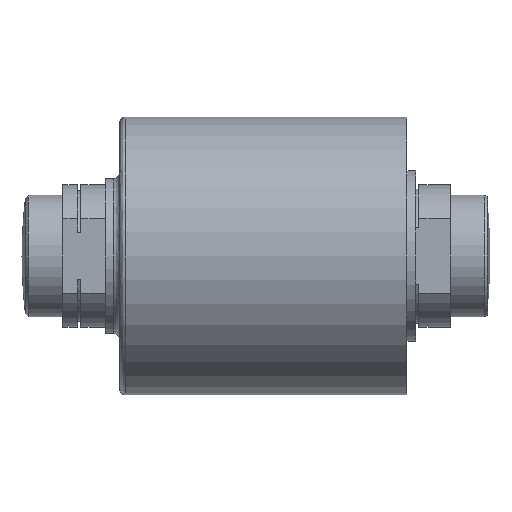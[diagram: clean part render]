
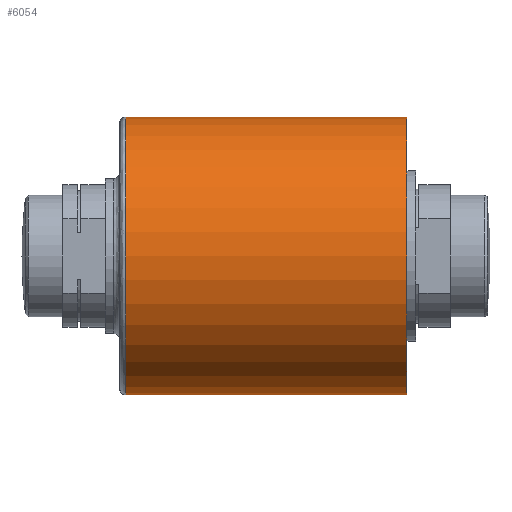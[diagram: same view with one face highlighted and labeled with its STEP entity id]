
A CAD part, left-side view. The second image highlights one B-rep face of the part: STEP entity #6054.
In plain terms, the highlighted cylindrical face has radius 44.45 mm (diameter 88.9 mm), a partial arc.
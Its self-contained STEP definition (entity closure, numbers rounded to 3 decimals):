
#178 = CYLINDRICAL_SURFACE ( 'NONE', #1650, 44.45 ) ;
#239 = CARTESIAN_POINT ( 'NONE',  ( 0., 0., 44.45 ) ) ;
#746 = VECTOR ( 'NONE', #4352, 1000. ) ;
#875 = CARTESIAN_POINT ( 'NONE',  ( 0., 116.812, -44.45 ) ) ;
#907 = EDGE_CURVE ( 'NONE', #5188, #5935, #5071, .T. ) ;
#934 = CARTESIAN_POINT ( 'NONE',  ( 0., 26.82, 44.45 ) ) ;
#1078 = AXIS2_PLACEMENT_3D ( 'NONE', #6734, #1265, #3538 ) ;
#1216 = VERTEX_POINT ( 'NONE', #2784 ) ;
#1265 = DIRECTION ( 'NONE',  ( 0., 1., 0. ) ) ;
#1650 = AXIS2_PLACEMENT_3D ( 'NONE', #6645, #3908, #6077 ) ;
#1744 = FACE_OUTER_BOUND ( 'NONE', #5509, .T. ) ;
#2135 = VECTOR ( 'NONE', #4502, 1000. ) ;
#2183 = LINE ( 'NONE', #3832, #746 ) ;
#2281 = VERTEX_POINT ( 'NONE', #875 ) ;
#2550 = EDGE_CURVE ( 'NONE', #5188, #2281, #3199, .T. ) ;
#2784 = CARTESIAN_POINT ( 'NONE',  ( 0., 26.82, -44.45 ) ) ;
#2843 = AXIS2_PLACEMENT_3D ( 'NONE', #6523, #6491, #4849 ) ;
#3199 = CIRCLE ( 'NONE', #2843, 44.45 ) ;
#3502 = ORIENTED_EDGE ( 'NONE', *, *, #2550, .T. ) ;
#3538 = DIRECTION ( 'NONE',  ( 0., 0., -1. ) ) ;
#3652 = ORIENTED_EDGE ( 'NONE', *, *, #5072, .T. ) ;
#3832 = CARTESIAN_POINT ( 'NONE',  ( 0., 0., -44.45 ) ) ;
#3908 = DIRECTION ( 'NONE',  ( 0., -1., 0. ) ) ;
#4335 = ORIENTED_EDGE ( 'NONE', *, *, #907, .F. ) ;
#4352 = DIRECTION ( 'NONE',  ( 0., -1., 0. ) ) ;
#4502 = DIRECTION ( 'NONE',  ( 0., -1., 0. ) ) ;
#4849 = DIRECTION ( 'NONE',  ( 0., 0., -1. ) ) ;
#5071 = LINE ( 'NONE', #239, #2135 ) ;
#5072 = EDGE_CURVE ( 'NONE', #2281, #1216, #2183, .T. ) ;
#5188 = VERTEX_POINT ( 'NONE', #5430 ) ;
#5220 = EDGE_CURVE ( 'NONE', #1216, #5935, #6527, .T. ) ;
#5430 = CARTESIAN_POINT ( 'NONE',  ( 0., 116.812, 44.45 ) ) ;
#5509 = EDGE_LOOP ( 'NONE', ( #4335, #3502, #3652, #5876 ) ) ;
#5876 = ORIENTED_EDGE ( 'NONE', *, *, #5220, .T. ) ;
#5935 = VERTEX_POINT ( 'NONE', #934 ) ;
#6054 = ADVANCED_FACE ( 'NONE', ( #1744 ), #178, .T. ) ;
#6077 = DIRECTION ( 'NONE',  ( 0., 0., -1. ) ) ;
#6491 = DIRECTION ( 'NONE',  ( 0., -1., 0. ) ) ;
#6523 = CARTESIAN_POINT ( 'NONE',  ( 0., 116.812, 0. ) ) ;
#6527 = CIRCLE ( 'NONE', #1078, 44.45 ) ;
#6645 = CARTESIAN_POINT ( 'NONE',  ( 0., 0., 0. ) ) ;
#6734 = CARTESIAN_POINT ( 'NONE',  ( 0., 26.82, 0. ) ) ;
